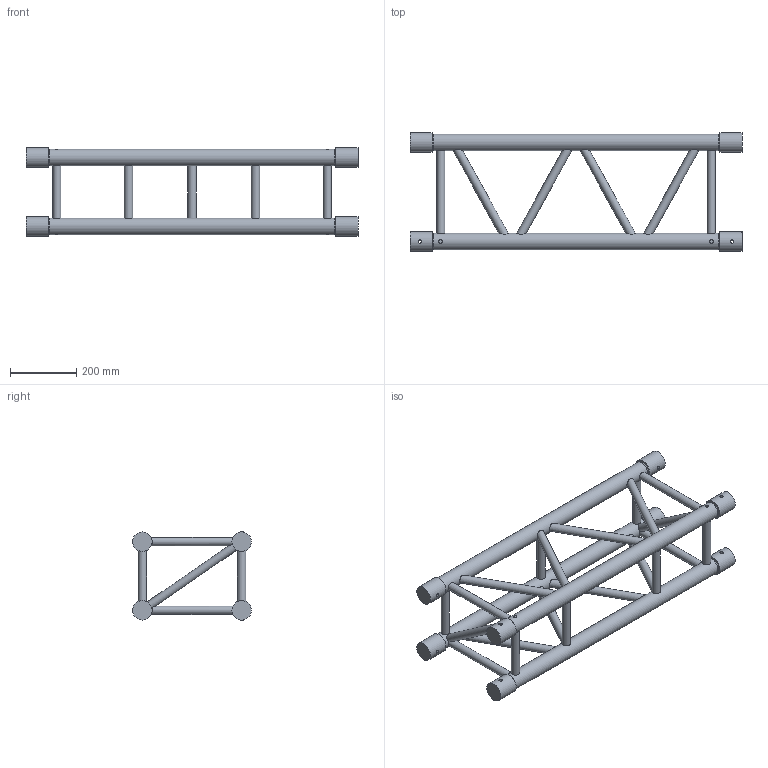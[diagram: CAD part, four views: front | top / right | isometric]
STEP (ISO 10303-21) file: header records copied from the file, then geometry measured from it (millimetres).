
FILE_DESCRIPTION(/* description */ (''),/* implementation_level */ '2;1');
FILE_NAME(/* name */ 'C:\Users\adrian.toca\Desktop\111110045.stp',/* time_stamp */ '2016-09-12T11:04:50+03:00',/* author */ ('adrian.toca'),/* organization */ (''),/* preprocessor_version */ 'ST-DEVELOPER v15.6',/* originating_system */ 'Autodesk Inventor 2015',/* authorisation */ '');
FILE_SCHEMA (('AUTOMOTIVE_DESIGN { 1 0 10303 214 3 1 1 }'));
Length unit declared in the file: millimetre
Products named in the file (1): 260030896
Bounding box: 1000 x 357.8 x 265.8 mm (x, y, z)
Volume: 10665967.9 mm3; surface area: 1084589.4 mm2
Topology: 6 solids, 8 shells, 197 faces, 404 edges, 230 vertices
Faces by surface type: plane 112, cylinder 77, cone 8
Full cylindrical faces by diameter (mm): 10 x8, 25 x21, 50 x4, 58.8 x8
Entity records: 6607 total; most frequent: CARTESIAN_POINT 2512, DIRECTION 822, ORIENTED_EDGE 688, AXIS2_PLACEMENT_3D 394, EDGE_LOOP 320, EDGE_CURVE 314, VERTEX_POINT 212, STYLED_ITEM 194
